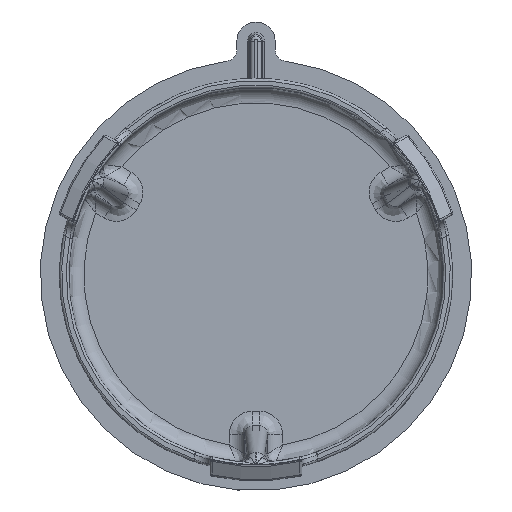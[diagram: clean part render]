
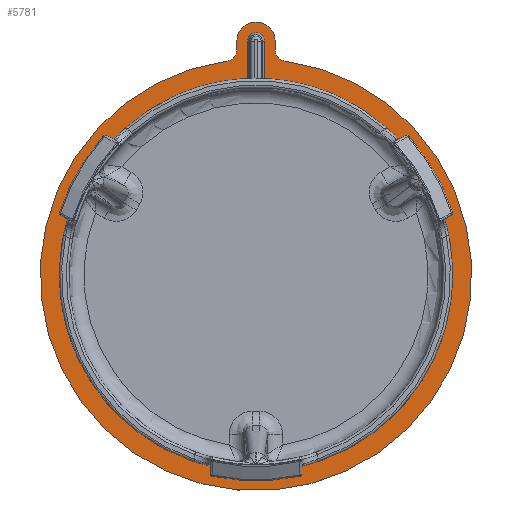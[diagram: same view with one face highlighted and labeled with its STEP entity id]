
A CAD part, top view. The second image highlights one B-rep face of the part: STEP entity #5781.
In plain terms, the highlighted planar face has unit normal (0, 0, 1).
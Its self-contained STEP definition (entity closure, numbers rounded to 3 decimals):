
#146=CARTESIAN_POINT('',(0.,0.,0.));
#147=DIRECTION('',(0.,0.,-1.));
#148=DIRECTION('',(0.043,0.999,0.));
#149=AXIS2_PLACEMENT_3D('',#146,#147,#148);
#446=DIRECTION('',(0.,1.,0.));
#447=VECTOR('',#446,1.121);
#448=CARTESIAN_POINT('',(-2.5,29.379,0.));
#449=LINE('',#448,#447);
#453=CARTESIAN_POINT('',(0.,30.5,0.));
#454=DIRECTION('',(0.,0.,-1.));
#455=DIRECTION('',(-1.,0.,0.));
#456=AXIS2_PLACEMENT_3D('',#453,#454,#455);
#461=DIRECTION('',(0.,-1.,0.));
#462=VECTOR('',#461,1.121);
#463=CARTESIAN_POINT('',(2.5,30.5,0.));
#464=LINE('',#463,#462);
#468=DIRECTION('',(0.,-1.,0.));
#469=VECTOR('',#468,4.874);
#470=CARTESIAN_POINT('',(-1.1,30.5,0.));
#471=LINE('',#470,#469);
#475=DIRECTION('',(0.,1.,0.));
#476=VECTOR('',#475,4.874);
#477=CARTESIAN_POINT('',(1.1,25.626,0.));
#478=LINE('',#477,#476);
#482=CARTESIAN_POINT('',(0.,30.5,0.));
#483=DIRECTION('',(0.,0.,1.));
#484=DIRECTION('',(1.,0.,0.));
#485=AXIS2_PLACEMENT_3D('',#482,#483,#484);
#505=CARTESIAN_POINT('',(0.,0.,0.));
#506=DIRECTION('',(0.,0.,1.));
#507=DIRECTION('',(-0.135,0.991,0.));
#508=AXIS2_PLACEMENT_3D('',#505,#506,#507);
#562=CARTESIAN_POINT('',(4.,29.379,0.));
#563=DIRECTION('',(0.,0.,-1.));
#564=DIRECTION('',(-0.135,-0.991,0.));
#565=AXIS2_PLACEMENT_3D('',#562,#563,#564);
#696=CARTESIAN_POINT('',(-4.,29.379,0.));
#697=DIRECTION('',(0.,0.,-1.));
#698=DIRECTION('',(1.,0.,0.));
#699=AXIS2_PLACEMENT_3D('',#696,#697,#698);
#5013=CARTESIAN_POINT('',(-2.5,30.5,0.));
#5014=CARTESIAN_POINT('',(2.5,30.5,0.));
#5015=VERTEX_POINT('',#5013);
#5016=VERTEX_POINT('',#5014);
#5017=CARTESIAN_POINT('',(2.5,29.379,0.));
#5018=VERTEX_POINT('',#5017);
#5019=CARTESIAN_POINT('',(-2.5,29.379,0.));
#5020=VERTEX_POINT('',#5019);
#5021=CARTESIAN_POINT('',(-3.798,27.893,0.));
#5022=CARTESIAN_POINT('',(3.798,27.893,0.));
#5023=VERTEX_POINT('',#5021);
#5024=VERTEX_POINT('',#5022);
#5049=CARTESIAN_POINT('',(-1.1,30.5,0.));
#5050=CARTESIAN_POINT('',(-1.1,25.626,0.));
#5051=VERTEX_POINT('',#5049);
#5052=VERTEX_POINT('',#5050);
#5053=CARTESIAN_POINT('',(1.1,25.626,0.));
#5054=CARTESIAN_POINT('',(1.1,30.5,0.));
#5055=VERTEX_POINT('',#5053);
#5056=VERTEX_POINT('',#5054);
#5754=CARTESIAN_POINT('',(0.,0.,0.));
#5755=DIRECTION('',(0.,0.,-1.));
#5756=DIRECTION('',(-1.,0.,0.));
#5757=AXIS2_PLACEMENT_3D('',#5754,#5755,#5756);
#5758=PLANE('',#5757);
#5760=ORIENTED_EDGE('',*,*,#5759,.F.);
#5762=ORIENTED_EDGE('',*,*,#5761,.F.);
#5764=ORIENTED_EDGE('',*,*,#5763,.T.);
#5766=ORIENTED_EDGE('',*,*,#5765,.T.);
#5768=ORIENTED_EDGE('',*,*,#5767,.T.);
#5770=ORIENTED_EDGE('',*,*,#5769,.F.);
#5771=EDGE_LOOP('',(#5760,#5762,#5764,#5766,#5768,#5770));
#5772=FACE_OUTER_BOUND('',#5771,.F.);
#5773=ORIENTED_EDGE('',*,*,#5740,.T.);
#5774=ORIENTED_EDGE('',*,*,#5572,.F.);
#5776=ORIENTED_EDGE('',*,*,#5775,.T.);
#5778=ORIENTED_EDGE('',*,*,#5777,.T.);
#5779=EDGE_LOOP('',(#5773,#5774,#5776,#5778));
#5780=FACE_BOUND('',#5779,.F.);
#150=CIRCLE('',#149,25.65);
#457=CIRCLE('',#456,2.5);
#486=CIRCLE('',#485,1.1);
#509=CIRCLE('',#508,28.15);
#566=CIRCLE('',#565,1.5);
#700=CIRCLE('',#699,1.5);
#5572=EDGE_CURVE('',#5055,#5052,#150,.T.);
#5740=EDGE_CURVE('',#5051,#5052,#471,.T.);
#5759=EDGE_CURVE('',#5023,#5024,#509,.T.);
#5761=EDGE_CURVE('',#5020,#5023,#700,.T.);
#5763=EDGE_CURVE('',#5020,#5015,#449,.T.);
#5765=EDGE_CURVE('',#5015,#5016,#457,.T.);
#5767=EDGE_CURVE('',#5016,#5018,#464,.T.);
#5769=EDGE_CURVE('',#5024,#5018,#566,.T.);
#5775=EDGE_CURVE('',#5055,#5056,#478,.T.);
#5777=EDGE_CURVE('',#5056,#5051,#486,.T.);
#5781=ADVANCED_FACE('',(#5772,#5780),#5758,.F.);
